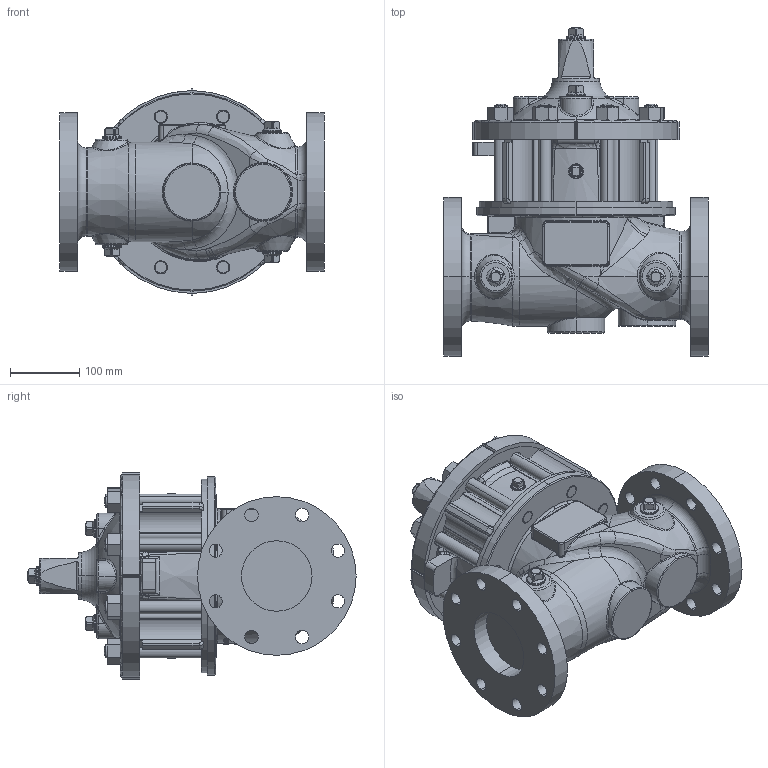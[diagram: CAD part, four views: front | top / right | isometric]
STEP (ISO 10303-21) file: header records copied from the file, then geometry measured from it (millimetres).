
FILE_DESCRIPTION (( 'STEP AP203' ), '1' );
FILE_NAME ('4in 100-02, 150AG.STEP', '2017-10-05T20:21:47', ( '' ), ( '' ), 'SwSTEP 2.0', 'SolidWorks 2017', '' );
FILE_SCHEMA (( 'CONFIG_CONTROL_DESIGN' ));
Length unit declared in the file: inch
Products named in the file (8): 4in Body, PU_G BRONZE; STUD .750-10 UNC (42883)_6.38  48033F; Hexnut .750-10 UNC (67811)_NUT, HEX HEAVY  67811-18C; .500 NPT SQ HD PIPE PLUG (67660)_STEEL CP (FORGED); 4in Body HyGl150A STD (BLUE)_Default 150 FLAT FACE; .750 NPT PIPE PLUG (67660)_Default STEEL, CAD PL; 4in Cover (no core)_Default DI; 4in 100-02, 150AG
Assembly tree (28 placements, depth 2):
  4in 100-02, 150AG
    4in Body HyGl150A STD (BLUE)_Default 150 FLAT FACE
    4in Cover (no core)_Default DI
    4in Body, PU_G BRONZE
    STUD .750-10 UNC (42883)_6.38  48033F  x8
    Hexnut .750-10 UNC (67811)_NUT, HEX HEAVY  67811-18C  x8
    .500 NPT SQ HD PIPE PLUG (67660)_STEEL CP (FORGED)  x2
    .750 NPT PIPE PLUG (67660)_Default STEEL, CAD PL  x7
Bounding box: 381 x 473.02 x 297.64 mm (x, y, z)
Volume: 16168616.4 mm3; surface area: 1060154.3 mm2
Topology: 28 solids, 30 shells, 2411 faces, 5574 edges, 3152 vertices
Faces by surface type: cylinder 590, cone 540, bspline 456, plane 397, torus 245, sphere 183
Entity records: 62912 total; most frequent: CARTESIAN_POINT 28655, ORIENTED_EDGE 7116, DIRECTION 6689, EDGE_CURVE 3558, AXIS2_PLACEMENT_3D 2842, VERTEX_POINT 2116, EDGE_LOOP 1642, CIRCLE 1641
